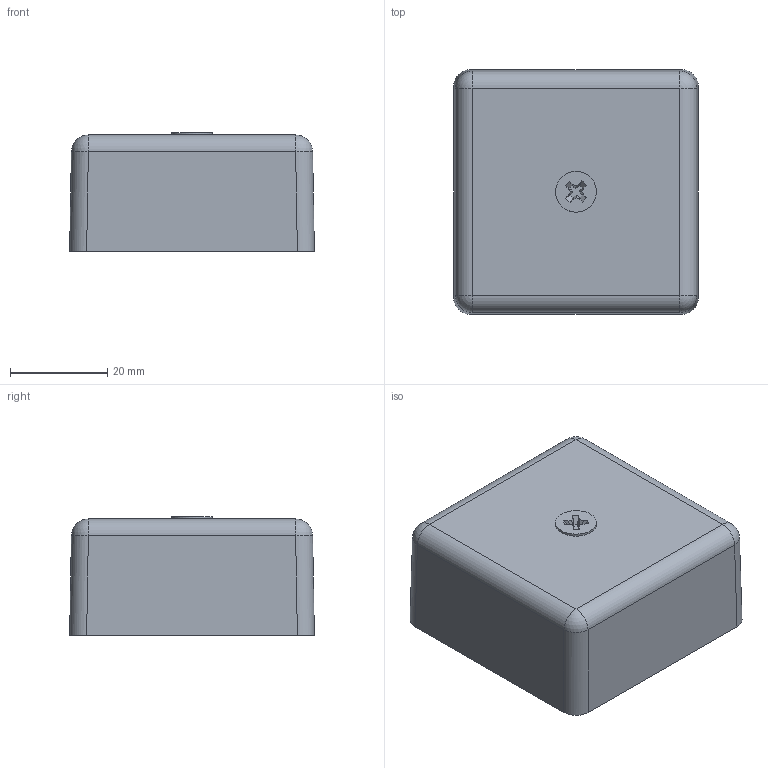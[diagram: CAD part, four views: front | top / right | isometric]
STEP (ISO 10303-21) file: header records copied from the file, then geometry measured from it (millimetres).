
FILE_DESCRIPTION(('STEP AP203'), '1');
FILE_NAME('ﾊﾌ-ﾎ-IP41-m', '', ('UNSPECIFIED'), ('UNSPECIFIED'), 'ASCON STEP Converter 1.6', 'ASCON Math Kernel', '');
FILE_SCHEMA(('CONFIG_CONTROL_DESIGN'));
Length unit declared in the file: millimetre
Bounding box: 50.42 x 50.42 x 24.51 mm (x, y, z)
Volume: 15404.1 mm3; surface area: 22925.1 mm2
Topology: 17 solids, 18 shells, 542 faces, 1580 edges, 1074 vertices
Faces by surface type: plane 368, cylinder 122, cone 24, sphere 20, torus 8
Full cylindrical faces by diameter (mm): 1.2 x4, 2.459 x1, 2.5 x10, 2.7 x1, 3 x3, 3.2 x2, 3.4 x1, 3.5 x4, 4 x7, 4.7 x1, 5.6 x1, 5.7 x1, 6 x2, 6.5 x1, 7 x2, 7.5 x1, 8 x1, 8.4 x1
Entity records: 25485 total; most frequent: CARTESIAN_POINT 6571, ORIENTED_EDGE 3000, DIRECTION 2952, EDGE_CURVE 1500, VERTEX_POINT 1074, AXIS2_PLACEMENT_3D 1019, LINE 914, VECTOR 914
